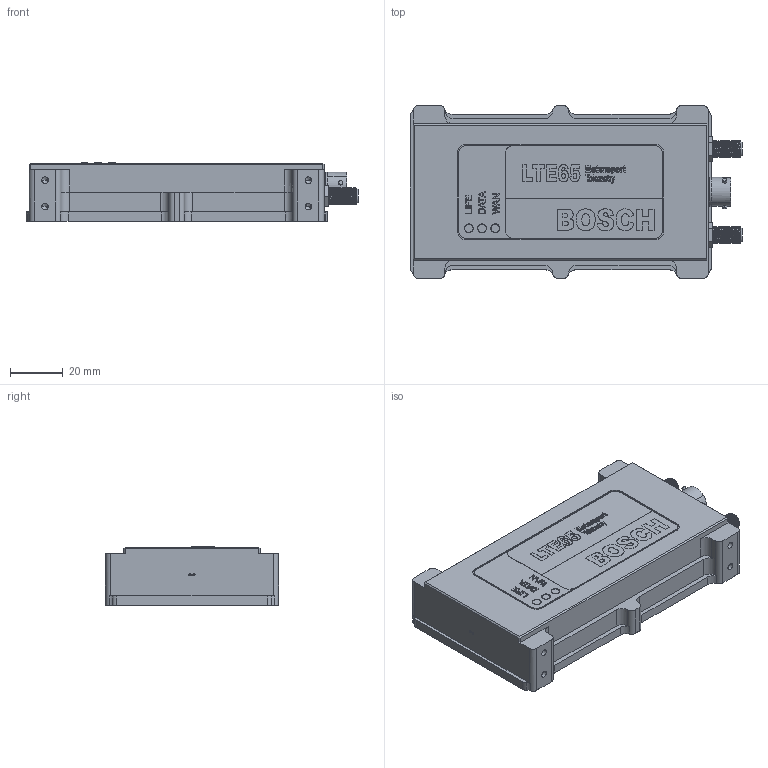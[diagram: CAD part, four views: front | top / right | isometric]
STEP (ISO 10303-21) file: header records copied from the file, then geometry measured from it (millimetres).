
FILE_DESCRIPTION(('CATIA V5 STEP Exchange','CAx-IF Rec.Pracs.--- Model Styling and Organization---1.4--- 2014-01-23'),'2;1');
FILE_NAME('Y:\Entwicklungsprojekte\LTE65\09_Productreleases\01_HW-Releases\02_Mechanik\F02UA02746_01_LTE65_NA_Customer.stp','2018-08-28T08:36:18+00:00',('none'),('none'),'CATIA Version 5-6 Release 2016 SP4 HF38','CATIA V5 STEP AP214','none');
FILE_SCHEMA(('AUTOMOTIVE_DESIGN { 1 0 10303 214 1 1 1 1 }'));
Products named in the file (1): F02UA02746-01_LTE65_NA
Bounding box: 125.6 x 65.5 x 22.3 mm (x, y, z)
Volume: 40025.4 mm3; surface area: 46758.1 mm2
Topology: 1 solids, 14 shells, 1733 faces, 4697 edges, 3034 vertices
Faces by surface type: cylinder 595, plane 569, extrusion 361, cone 120, torus 40, sphere 36, bspline 12
Entity records: 79118 total; most frequent: CARTESIAN_POINT 39485, ORIENTED_EDGE 9234, DIRECTION 5909, EDGE_CURVE 4617, VERTEX_POINT 3034, VECTOR 2660, LINE 2299, AXIS2_PLACEMENT_3D 1993
